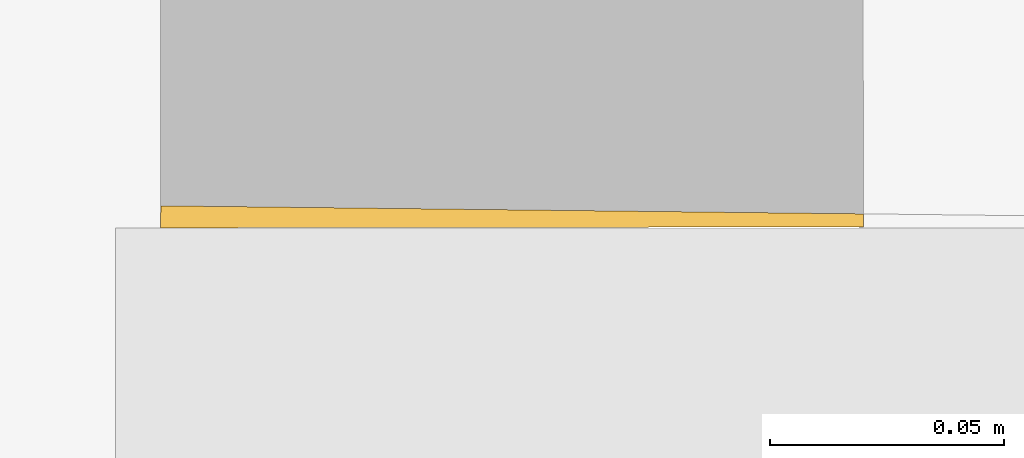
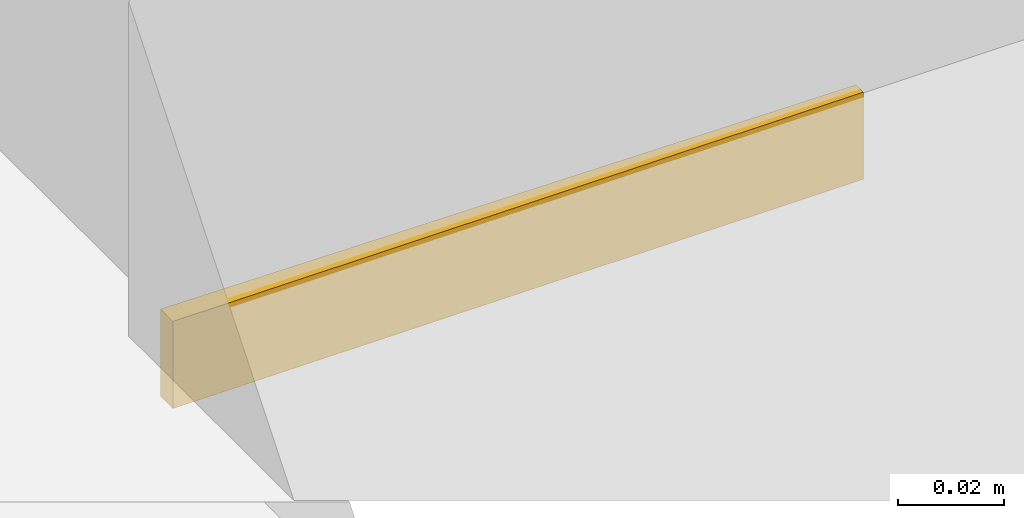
# One storey, part 72 of 127: 1 covering.
"""IFC2X3 building model written with IfcOpenShell, lengths in millimetres."""

from ifc_helpers import new_model, entity, si_unit, converted_unit, derived_unit, money_unit, direction, frame, origin_with_axes, place, context, subcontext, project, spatial, polyline, outline, extrude, material, type_object, element, save


model = new_model("IFC2X3")

# Units and contexts
model_context = context("Model", 3, precision=1e-05, world=origin_with_axes(), true_north=direction((0.0, 1.0)))
body_context = subcontext(model_context, "Body", "Model", "MODEL_VIEW")
ifc_project = project(units=[si_unit("LENGTHUNIT", "METRE", prefix="MILLI"), si_unit("AREAUNIT", "SQUARE_METRE"), si_unit("VOLUMEUNIT", "CUBIC_METRE"), converted_unit("PLANEANGLEUNIT", "DEGREE", entity("IfcPlaneAngleMeasure", 0.0174532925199), si_unit("PLANEANGLEUNIT", "RADIAN"), dimensions=[0, 0, 0, 0, 0, 0, 0]), si_unit("SOLIDANGLEUNIT", "STERADIAN"), money_unit("EUR"), converted_unit("TIMEUNIT", "Year", entity("IfcTimeMeasure", 31556926.0), si_unit("TIMEUNIT", "SECOND"), dimensions=[0, 0, 1, 0, 0, 0, 0]), si_unit("MASSUNIT", "GRAM", prefix="KILO"), si_unit("THERMODYNAMICTEMPERATUREUNIT", "DEGREE_CELSIUS"), si_unit("LUMINOUSINTENSITYUNIT", "LUMEN"), si_unit("ENERGYUNIT", "JOULE", prefix="MEGA"), derived_unit("THERMALCONDUCTANCEUNIT", [(si_unit("POWERUNIT", "WATT"), 1), (si_unit("LENGTHUNIT", "METRE"), -1), (si_unit("THERMODYNAMICTEMPERATUREUNIT", "KELVIN"), -1)]), derived_unit("SPECIFICHEATCAPACITYUNIT", [(si_unit("ENERGYUNIT", "JOULE"), 1), (si_unit("MASSUNIT", "GRAM", prefix="KILO"), -1), (si_unit("THERMODYNAMICTEMPERATUREUNIT", "KELVIN"), -1)]), derived_unit("MASSDENSITYUNIT", [(si_unit("MASSUNIT", "GRAM", prefix="KILO"), 1), (si_unit("VOLUMEUNIT", "CUBIC_METRE"), -1)])], contexts=[model_context])

# Site, building, storey
site_placement = place(None, origin_with_axes())
site = spatial("IfcSite", under=ifc_project, at=site_placement, Name="Site", CompositionType="ELEMENT")
building_placement = place(site_placement, origin_with_axes())
building = spatial("IfcBuilding", under=site, at=building_placement, Name="Building", CompositionType="ELEMENT")
storey_placement = place(building_placement, origin_with_axes())
storey = spatial("IfcBuildingStorey", under=building, at=storey_placement, Name="1 KORRUS", CompositionType="ELEMENT", Elevation=0.0)

# Covering
ifc_material = material(Name="Betoon - Ol.Olev konstruktsioon")
covering_type = type_object("IfcCoveringType", Name="P-6", PredefinedType="NOTDEFINED")
covering_placement = place(storey_placement, frame((24744.8362244, 35186.3498016, 0.0), z_axis=(0.0, 0.0, 1.0), x_axis=(1.0, 0.0, 0.0)))
element("IfcCovering", 1, at=covering_placement, inside=storey, type_object=covering_type, material=ifc_material, Name="Betoon - Ol.Olev konstruktsioon", PredefinedType="NOTDEFINED", context=body_context, shape_type="SweptSolid", body=[
    extrude(outline(polyline([(0.0, 0.0), (-0.0542654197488, -4.71389472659), (149.9456121, -4.53124526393), (149.942220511, -1.72681498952), (0.0, 0.0)])), frame((0.0, 0.0, -20.0), z_axis=(0.0, 0.0, 1.0), x_axis=(1.0, 0.0, 0.0)), (0.0, 0.0, 1.0), 20.0),
])

save(model, "model.ifc")
